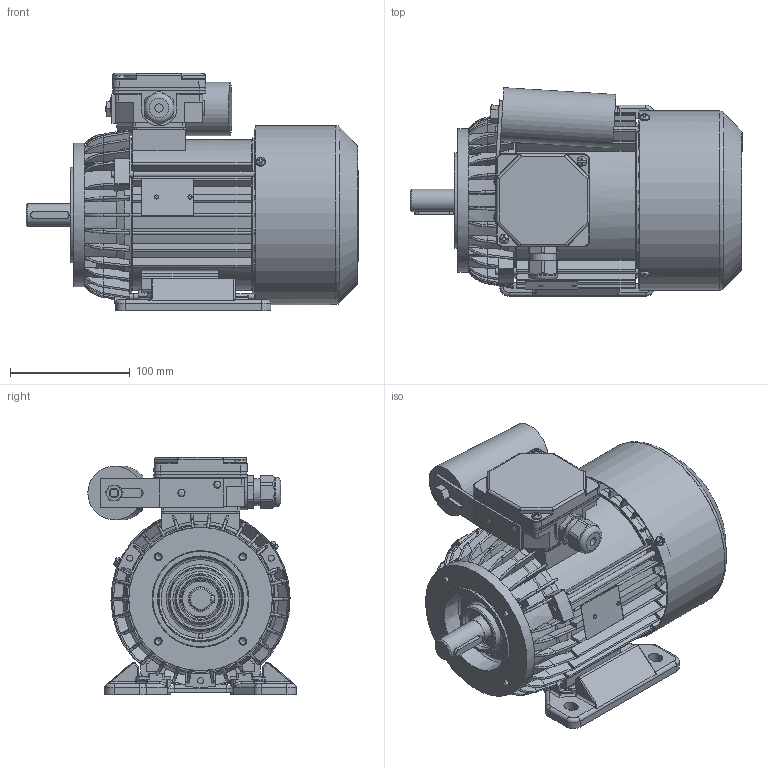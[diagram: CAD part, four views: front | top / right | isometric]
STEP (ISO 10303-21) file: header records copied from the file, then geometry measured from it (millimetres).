
FILE_DESCRIPTION( ( 'Unknown' ), '1' );
FILE_NAME( 'G:/Poczta Tk-1/STP/w.m.80/SEh80/SELh80-.B2.stp', 'Unknown', ( 'K. Szlosek' ), ( 'BESEL S.A.' ), 'PSStep 17.0.49', 'Unknown', ' ' );
FILE_SCHEMA( ( 'AUTOMOTIVE_DESIGN { 1 0 10303 214 1 1 1 1 }' ) );
Length unit declared in the file: millimetre
Products named in the file (34): Assem1; K1-1257 Kadłub S(E,M)h80-A i B; Kondensator zb 25-31,5uF Comar; K3-2964 Osłona przewietrznika Sh80,90; K2-0860 Pokrywka skrzynki zaciskowej; K4-2320 Uszczelka nr 1 Sh71,80; K3-4616 wał standard Sh80-B; K3-6857 Tarcza łożyskowa P S(E,M)h80-B,D; Wkręt samogwintujący M4x8; Wpust A6x6x32; K2-1131 Podstawa skrzynki zaciskowej jednofazowa; K4-2820 Uszczelka nr 2 Sh71,80; Wkręt samogwintujący M4x16; K4-0898 Tulejka uszczelniająca; nakrętka M8; Nit 4x12 po skróceniu; Nitokołek A 2x6; K3-4025 Przewietrznik Sg,h80; K4-2999 Uchwyt kondensatora; Dławnica M20x1,5; Tabliczka znamionowa 32x44; Łożysko 6204; Śruba ściągająca E_M5x130; K1-1261 Tarcza kołnierzowa B14_2 w.m. 80; K1-0437 Łapa Sh80-.. 
Assembly tree (50 placements, depth 2):
  Assem1
    K1-1257 Kadłub S(E,M)h80-A i B
    Kondensator zb 25-31,5uF Comar
    K3-2964 Osłona przewietrznika Sh80,90
    K2-0860 Pokrywka skrzynki zaciskowej
    K4-2320 Uszczelka nr 1 Sh71,80
    K3-4616 wał standard Sh80-B
    K3-6857 Tarcza łożyskowa P S(E,M)h80-B,D
    Wkręt samogwintujący M4x8  x3
    Wpust A6x6x32
    K2-1131 Podstawa skrzynki zaciskowej jednofazowa
    K4-2820 Uszczelka nr 2 Sh71,80
    Wkręt samogwintujący M4x16  x2
    K4-0898 Tulejka uszczelniająca
    nakrętka M8
    Nit 4x12 po skróceniu  x2
    Nitokołek A 2x6  x2
    K3-4025 Przewietrznik Sg,h80
    K4-2999 Uchwyt kondensatora
    Dławnica M20x1,5
    Tabliczka znamionowa 32x44
    Łożysko 6204  x2
    Łożysko 6204  x2
    Łożysko 6204  x2
    Łożysko 6204  x2
    Łożysko 6204  x2
    Łożysko 6204  x2
    Łożysko 6204  x2
    Łożysko 6204  x2
    Łożysko 6204  x2
    Łożysko 6204  x2
    Śruba ściągająca E_M5x130  x3
    K1-1261 Tarcza kołnierzowa B14_2 w.m. 80
    K1-0437 Łapa Sh80-.. 
Bounding box: 277.8 x 174.3 x 198.5 mm (x, y, z)
Volume: 1124510.5 mm3; surface area: 601486.5 mm2
Topology: 50 solids, 66 shells, 2994 faces, 8359 edges, 5379 vertices
Faces by surface type: plane 1403, cylinder 911, bspline 261, torus 211, cone 170, sphere 38
Full cylindrical faces by diameter (mm): 2 x2, 2.4 x2, 3 x1, 3.7 x11, 4 x9, 4.2 x3, 4.3 x2, 4.5 x3, 4.6 x3, 4.8 x4, 5 x11, 5.5 x3, 6 x2, 6.5 x5, 6.647 x1, 7 x1, 8 x10, 10 x2, 18.376 x1, 18.38 x1, 19 x1, 19.3 x1, 19.5 x1, 19.9 x1, 20 x3, 20.3 x2, 20.4 x4, 22.3 x1, 25 x1, 25.5 x1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
Entity records: 149971 total; most frequent: CARTESIAN_POINT 56738, ORIENTED_EDGE 15008, DIRECTION 13972, EDGE_CURVE 7504, AXIS2_PLACEMENT_3D 5133, VERTEX_POINT 5000, LINE 3706, VECTOR 3706
